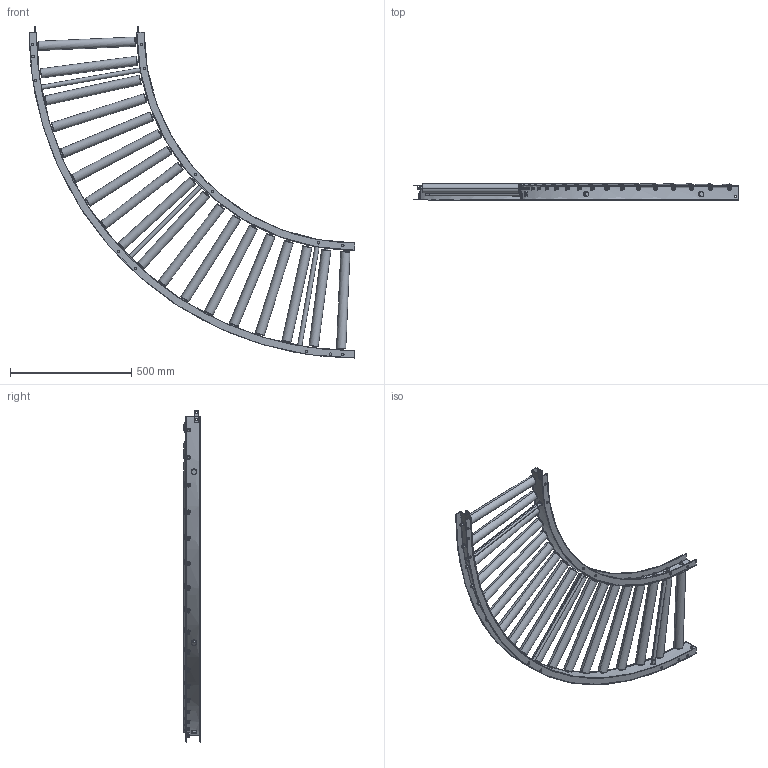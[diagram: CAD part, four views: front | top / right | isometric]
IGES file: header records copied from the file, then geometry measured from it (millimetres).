
Start section: SolidWorks IGES file using analytic representation for surfaces
Global section: file name: C:\Users\0656\Desktop\変換ツール\iges変換\R-3816_C.igs; native system: SolidWorks 2023; preprocessor: SolidWorks 2023; author: 0656; date: 240315.111806; units: millimetre
Bounding box: 1345 x 67.05 x 1370.08 mm (x, y, z)
Surface area: 2673599.4 mm2 (no closed solid volume)
Topology: 0 solids, 0 shells, 820 faces, 17884 edges, 17884 vertices
Faces by surface type: revolution 442, bspline 378
